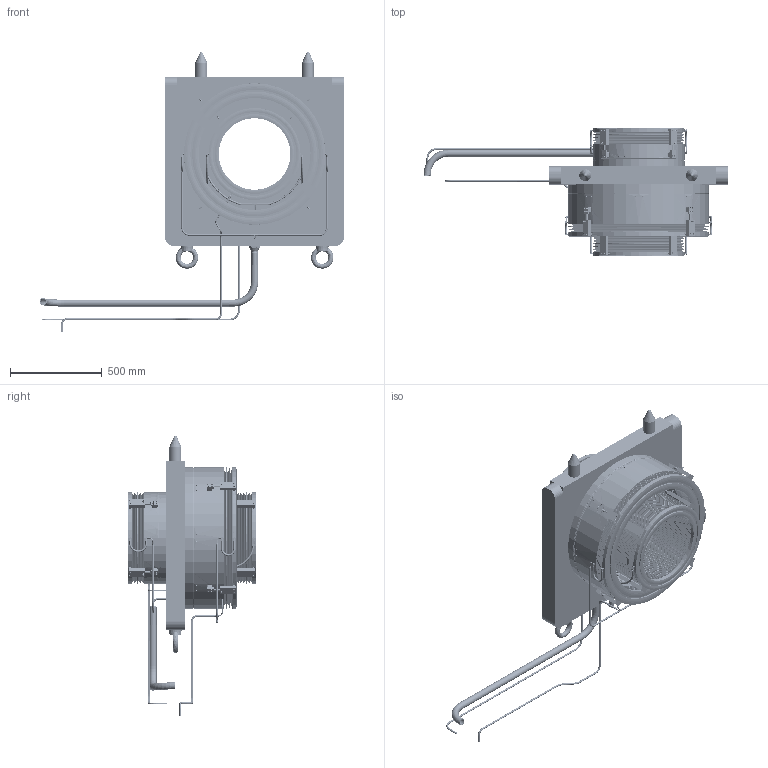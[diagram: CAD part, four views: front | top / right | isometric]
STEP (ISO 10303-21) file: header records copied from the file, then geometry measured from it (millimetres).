
FILE_DESCRIPTION(/* description */ ('螺线管充气波纹管390+610组合'),/* implementation_level */ '2;1');
FILE_NAME(/* name */ 'D:\work\inventor\缪子线3-4\氦容器5-7\螺线管充气波纹管390+610组合9-14.stp',/* time_stamp */ '2026-09-14T17:04:41+08:00',/* author */ ('Administrator'),/* organization */ (''),/* preprocessor_version */ 'ST-DEVELOPER v18',/* originating_system */ 'Autodesk Inventor 2020',/* authorisation */ '');
FILE_SCHEMA (('AUTOMOTIVE_DESIGN { 1 0 10303 214 3 1 1 }'));
Products named in the file (63): 螺线管充气波纹管390+610组合; 四极磁铁充气型波纹管_表面缪侧_
390mm_表面缪侧_390mm; 厚法兰_表面缪侧_390mm; 内膨胀节_表面缪侧_390
mm; 外膨胀节_表面缪侧_390
mm; 软连接管表面缪侧_390mm长行程; 10mm三通_表面缪侧_390mm; 气压管_表面缪侧_390mm; 导向机构; 导向滑块2_表面缪侧_39
0mm; 导向滑块1_表面缪侧_39
0mm; 真空管连接管_200mm_表面缪侧_
390mm; 真空管汇总管; 四极铁充气型波纹管-表面缪侧_
610mm_610mm; 厚法兰（靶站侧）_610mm; 内膨胀节_610mm; 外膨胀节束2; 薄膜法兰_610mm; 外薄膜_610mm; 内薄膜_610mm; 右两通块_610mm; 左两通块_610mm; 两通块_610mm; 软连接管_610mm; 真空转换管_610mm; 异型管接头_610mm; 气压管_610mm; 10mm三通__610mm; 真空连接管4; 充气型波纹管_表面缪侧_
390mm后; 厚法兰_表面缪侧_390mm 后; 内膨胀节_表面缪侧_390
mm后; 外膨胀节_表面缪侧_390
mm后; 薄膜法兰_表面缪侧_390
mm; 外薄膜_表面缪侧_390mm; 内薄膜-_表面缪侧_390mm; 右两通块_表面缪侧_390
mm; 左两通块_表面缪侧_390
mm; 两通块_表面缪侧_390mm; 软连接管表面缪侧_390mm后 ...
Assembly tree (120 placements, depth 4):
  螺线管充气波纹管390+610组合
    四极磁铁充气型波纹管_表面缪侧_
390mm_表面缪侧_390mm
      厚法兰_表面缪侧_390mm
      内膨胀节_表面缪侧_390
mm
      外膨胀节_表面缪侧_390
mm
      薄膜法兰_表面缪侧_390
mm
      外薄膜_表面缪侧_390mm
      内薄膜-_表面缪侧_390mm
      两通块_表面缪侧_390mm  x2
      右两通块_表面缪侧_390
mm
      软连接管表面缪侧_390mm长行程  x2
      左两通块_表面缪侧_390
mm
      异型管接头_表面缪侧_
390mm  x2
      10mm三通_表面缪侧_390mm
      气压管_表面缪侧_390mm
      真空管连接管_200mm_表面缪侧_
390mm  x2
      导向机构  x4
        螺钉 GB/T 70.1 M6 x 30(1)
        垫圈 GB 93-87 6
        导向滑块2_表面缪侧_39
0mm
        螺钉 GB/T 70.1 M6 x 25(1)
        导向滑块1_表面缪侧_39
0mm
        螺钉 GB/T 70.1 M6 x 12(1)
        挡块
        螺钉 GB/T 70.1 M4 x 12(1)
      真空连接管1  x2
      真空管汇总管
    四极铁充气型波纹管-表面缪侧_
610mm_610mm
      厚法兰（靶站侧）_610mm
      内膨胀节_610mm
      外膨胀节束2
      薄膜法兰_610mm
      外薄膜_610mm
      内薄膜_610mm
      两通块_610mm  x2
      右两通块_610mm
      软连接管_610mm  x2
      左两通块_610mm
      真空转换管_610mm  x2
      异型管接头_610mm  x2
      气压管_610mm
      10mm三通__610mm
      导向机构2  x4
        螺钉 GB/T 70.1 M6 x 30(1)
        垫圈 GB 93-87 6
        导向滑块2_表面缪侧_61
0mm
        螺钉 GB/T 70.1 M6 x 25(1)
        导向滑块1_表面缪侧_61
0mm
        螺钉 GB/T 70.1 M6 x 12(1)
        挡块
        螺钉 GB/T 70.1 M4 x 12(1)
      真空连接管4  x2
    充气型波纹管_表面缪侧_
390mm后
      厚法兰_表面缪侧_390mm 后
      内膨胀节_表面缪侧_390
mm后
      外膨胀节_表面缪侧_390
mm后
      薄膜法兰_表面缪侧_390
mm
      外薄膜_表面缪侧_390mm
      内薄膜-_表面缪侧_390mm
      两通块_表面缪侧_390mm  x2
Bounding box: 1657.13 x 694.36 x 1523.31 mm (x, y, z)
Volume: 125913501.9 mm3; surface area: 29141264.2 mm2
Topology: 274 solids, 274 shells, 6303 faces, 16540 edges, 11005 vertices
Faces by surface type: cone 2637, plane 2005, cylinder 1196, torus 405, bspline 58, sphere 2
Full cylindrical faces by diameter (mm): 3.242 x14, 4 x78, 4.5 x12, 4.917 x84, 5 x21, 6 x172, 6.647 x40, 7 x84, 8 x63, 10 x173, 11 x72, 12 x12, 12.2 x12, 24.4 x1, 28 x1, 29.91 x2, 30 x3, 31.67 x5, 32 x5, 32.4 x1, 36 x9, 38 x6, 40 x2, 46 x2, 65 x2, 390 x7, 430 x4, 434 x4, 456 x4, 460 x4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
Entity records: 109354 total; most frequent: CARTESIAN_POINT 21401, DIRECTION 20345, ORIENTED_EDGE 17032, AXIS2_PLACEMENT_3D 8569, EDGE_CURVE 8516, VERTEX_POINT 5532, CIRCLE 5025, EDGE_LOOP 3686
